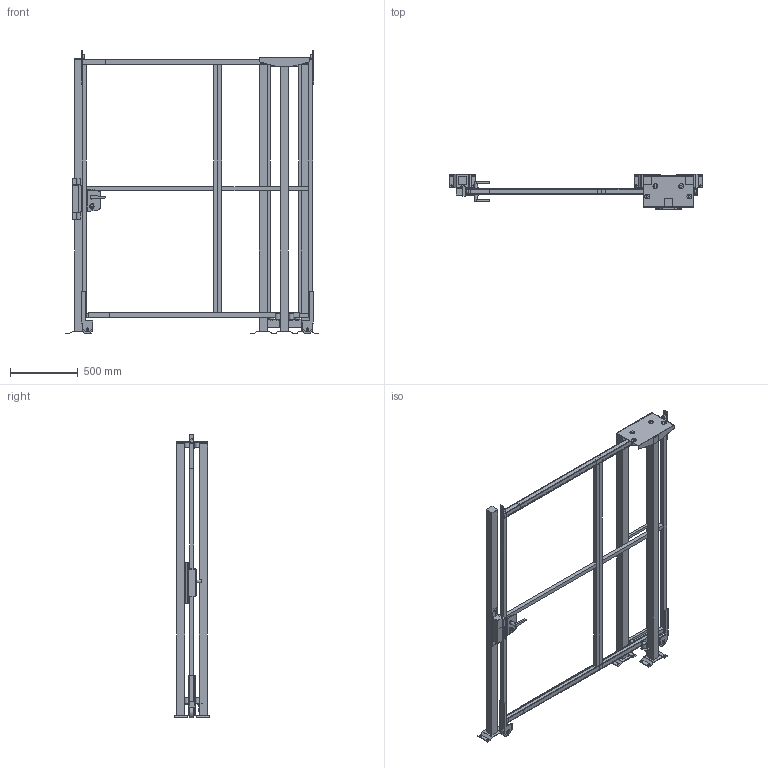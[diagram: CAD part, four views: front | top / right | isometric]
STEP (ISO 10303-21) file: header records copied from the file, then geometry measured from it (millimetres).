
FILE_DESCRIPTION(/* description */ (''),/* implementation_level */ '2;1');
FILE_NAME(/* name */ 'C:\SafeGuarding\ELABORATI\KLADKOUGAMMA_2025-03-20-13-10-38.stp',/* time_stamp */ '2025-03-20T13:10:43+01:00',/* author */ ('admin'),/* organization */ (''),/* preprocessor_version */ 'ST-DEVELOPER v18.1',/* originating_system */ 'AutoCAD Mechanical',/* authorisation */ '');
FILE_SCHEMA (('AUTOMOTIVE_DESIGN { 1 0 10303 214 3 1 1 }'));
Length unit declared in the file: millimetre
Products named in the file (5): Product; R_VFPA.REPE30.07001900; R_VFPA.REPE30.10001900; R_VFPA.REPE20.02501900; P_VFMA.V260SDU.2020
Assembly tree (7 placements, depth 2):
  Product
    R_VFPA.REPE30.07001900
    R_VFPA.REPE30.10001900
    P_VFMA.V260SDU.2020  x4
    R_VFPA.REPE20.02501900
Bounding box: 1862 x 264 x 2090.02 mm (x, y, z)
Volume: 46531157.4 mm3; surface area: 6284688.9 mm2
Topology: 68 solids, 68 shells, 608 faces, 1719 edges, 1661 vertices
Faces by surface type: plane 530, cylinder 74, bspline 4
Full cylindrical faces by diameter (mm): 9 x4, 11 x16, 13 x4, 18 x1, 25 x2, 25.398 x2, 30 x6, 36 x8, 80 x2
Entity records: 17948 total; most frequent: CARTESIAN_POINT 4634, DIRECTION 2656, ORIENTED_EDGE 2374, LINE 1194, VECTOR 1194, EDGE_CURVE 1187, VERTEX_POINT 798, AXIS2_PLACEMENT_3D 731
